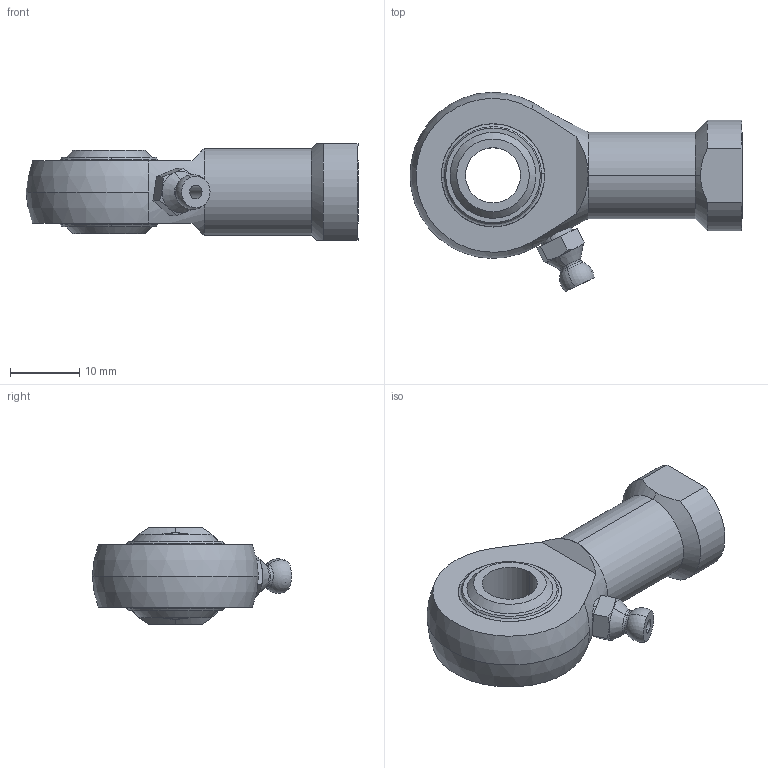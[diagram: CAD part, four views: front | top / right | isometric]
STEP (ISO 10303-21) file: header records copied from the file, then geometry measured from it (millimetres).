
FILE_DESCRIPTION (( 'STEP AP203' ), '1' );
FILE_NAME ('65760.W0108.step', '2014-02-11T16:41:26', ( 'User' ), ( '' ), 'SwSTEP 2.0', 'SolidWorks 2009', '' );
FILE_SCHEMA (( 'CONFIG_CONTROL_DESIGN' ));
Length unit declared in the file: millimetre
Products named in the file (5): 65760.W0108; Part1_65760.W0108; Part2_65760.W0108; Part3_M5; Part4_65760.W0108
Assembly tree (5 placements, depth 2):
  65760.W0108
    Part1_65760.W0108
    Part4_65760.W0108  x2
    Part2_65760.W0108
    Part3_M5
Bounding box: 48 x 28.8 x 14 mm (x, y, z)
Volume: 6162.6 mm3; surface area: 5638.8 mm2
Topology: 46 solids, 46 shells, 183 faces, 524 edges, 353 vertices
Faces by surface type: sphere 98, plane 27, torus 22, cylinder 20, cone 16
Entity records: 4803 total; most frequent: CARTESIAN_POINT 897, DIRECTION 814, ORIENTED_EDGE 558, AXIS2_PLACEMENT_3D 385, EDGE_CURVE 279, VERTEX_POINT 208, CIRCLE 207, EDGE_LOOP 189
